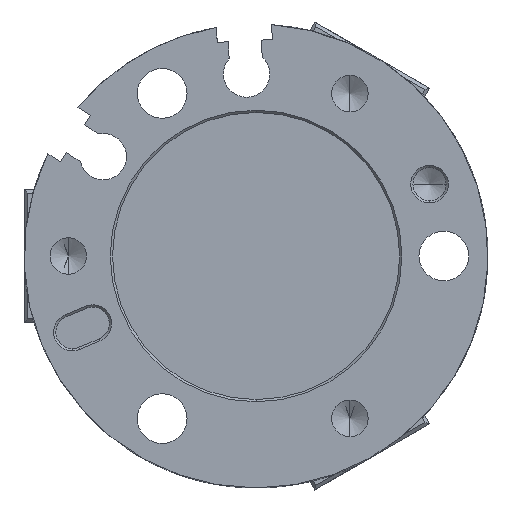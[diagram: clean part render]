
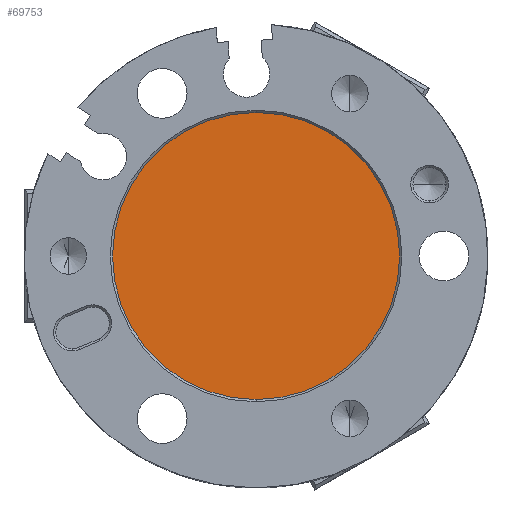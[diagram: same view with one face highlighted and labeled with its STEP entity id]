
A CAD part, front view. The second image highlights one B-rep face of the part: STEP entity #69753.
In plain terms, the highlighted planar face has unit normal (0, -1, 0).
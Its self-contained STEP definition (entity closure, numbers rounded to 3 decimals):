
#200 = DIRECTION ( 'NONE',  ( 0., 0., -1. ) ) ;
#2318 = CARTESIAN_POINT ( 'NONE',  ( 0., 1.5, 0. ) ) ;
#3401 = ORIENTED_EDGE ( 'NONE', *, *, #33874, .T. ) ;
#7365 = DIRECTION ( 'NONE',  ( 0., -1., 0. ) ) ;
#7884 = DIRECTION ( 'NONE',  ( 0., 0., -1. ) ) ;
#14791 = AXIS2_PLACEMENT_3D ( 'NONE', #40779, #7365, #46393 ) ;
#19534 = AXIS2_PLACEMENT_3D ( 'NONE', #44545, #33565, #200 ) ;
#33565 = DIRECTION ( 'NONE',  ( 0., -1., 0. ) ) ;
#33874 = EDGE_CURVE ( 'NONE', #50300, #72155, #39152, .T. ) ;
#39152 = CIRCLE ( 'NONE', #14791, 13. ) ;
#40510 = EDGE_CURVE ( 'NONE', #72155, #50300, #53815, .T. ) ;
#40779 = CARTESIAN_POINT ( 'NONE',  ( 0., 1.5, 0. ) ) ;
#41300 = DIRECTION ( 'NONE',  ( 0., -1., 0. ) ) ;
#41603 = CARTESIAN_POINT ( 'NONE',  ( 0., 1.5, -13. ) ) ;
#42361 = EDGE_LOOP ( 'NONE', ( #3401, #71736 ) ) ;
#44545 = CARTESIAN_POINT ( 'NONE',  ( 0., 1.5, 0. ) ) ;
#46393 = DIRECTION ( 'NONE',  ( 0., 0., -1. ) ) ;
#49657 = CARTESIAN_POINT ( 'NONE',  ( 0., 1.5, 13. ) ) ;
#50300 = VERTEX_POINT ( 'NONE', #41603 ) ;
#53815 = CIRCLE ( 'NONE', #68715, 13. ) ;
#67006 = PLANE ( 'NONE',  #19534 ) ;
#67877 = FACE_OUTER_BOUND ( 'NONE', #42361, .T. ) ;
#68715 = AXIS2_PLACEMENT_3D ( 'NONE', #2318, #41300, #7884 ) ;
#69753 = ADVANCED_FACE ( 'NONE', ( #67877 ), #67006, .T. ) ;
#71736 = ORIENTED_EDGE ( 'NONE', *, *, #40510, .T. ) ;
#72155 = VERTEX_POINT ( 'NONE', #49657 ) ;
